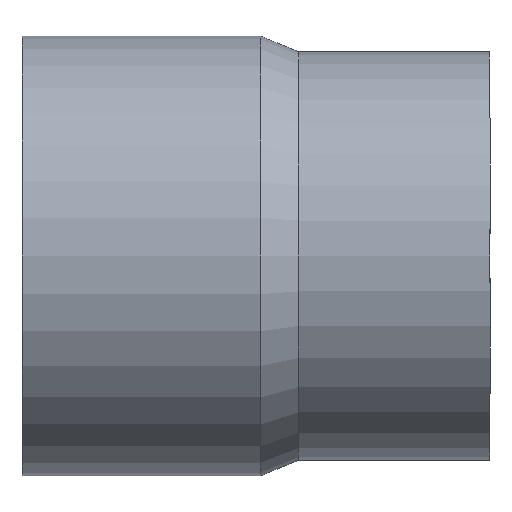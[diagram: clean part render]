
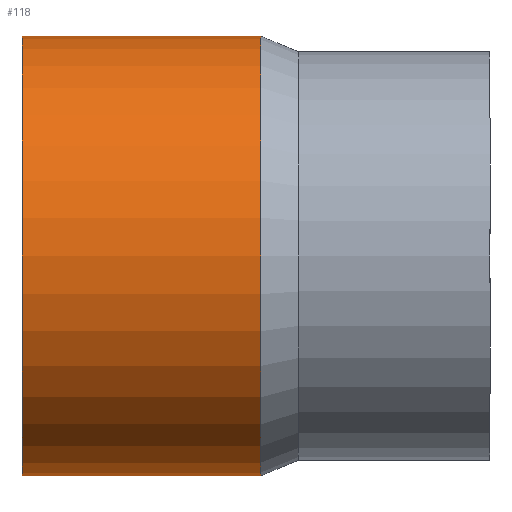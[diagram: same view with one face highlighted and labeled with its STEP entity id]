
A CAD part, front view. The second image highlights one B-rep face of the part: STEP entity #118.
In plain terms, the highlighted cylindrical face has radius 70 mm (diameter 140 mm), a full revolution.
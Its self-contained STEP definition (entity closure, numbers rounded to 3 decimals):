
#18=CYLINDRICAL_SURFACE('',#134,70.);
#25=FACE_BOUND('',#49,.T.);
#35=FACE_OUTER_BOUND('',#48,.T.);
#48=EDGE_LOOP('',(#98));
#49=EDGE_LOOP('',(#99));
#65=CIRCLE('',#133,70.);
#66=CIRCLE('',#135,70.);
#75=VERTEX_POINT('',#199);
#76=VERTEX_POINT('',#202);
#85=EDGE_CURVE('',#75,#75,#65,.T.);
#86=EDGE_CURVE('',#76,#76,#66,.T.);
#98=ORIENTED_EDGE('',*,*,#85,.T.);
#99=ORIENTED_EDGE('',*,*,#86,.F.);
#118=ADVANCED_FACE('',(#35,#25),#18,.T.);
#133=AXIS2_PLACEMENT_3D('',#200,#161,#162);
#134=AXIS2_PLACEMENT_3D('',#201,#163,#164);
#135=AXIS2_PLACEMENT_3D('',#203,#165,#166);
#161=DIRECTION('center_axis',(-1.,0.,0.));
#162=DIRECTION('ref_axis',(0.,0.,1.));
#163=DIRECTION('center_axis',(-1.,0.,0.));
#164=DIRECTION('ref_axis',(0.,-1.,0.));
#165=DIRECTION('center_axis',(-1.,0.,0.));
#166=DIRECTION('ref_axis',(0.,0.,1.));
#199=CARTESIAN_POINT('',(1.5,-70.,0.));
#200=CARTESIAN_POINT('Origin',(1.5,0.,0.));
#201=CARTESIAN_POINT('Origin',(-36.5,0.,0.));
#202=CARTESIAN_POINT('',(-74.5,-70.,0.));
#203=CARTESIAN_POINT('Origin',(-74.5,0.,0.));
